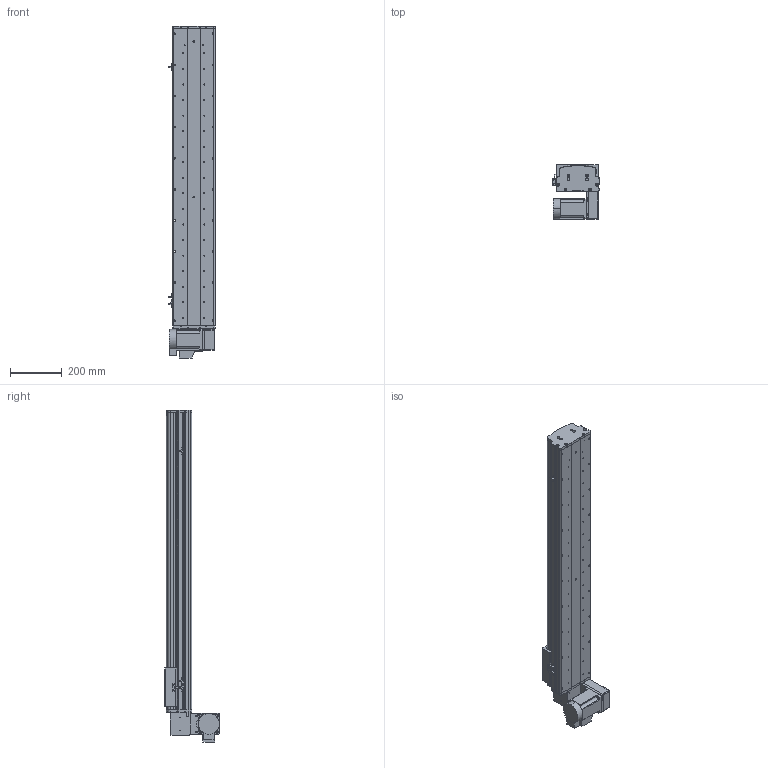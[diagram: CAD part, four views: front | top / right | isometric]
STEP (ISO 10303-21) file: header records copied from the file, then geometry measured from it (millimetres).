
FILE_DESCRIPTION (( 'STEP AP214' ), '1' );
FILE_NAME ('KSD165B-S900-MRD-CM.STEP', '2017-10-16T09:39:50', ( '微软用户' ), ( '微软中国' ), 'SwSTEP 2.0', 'SolidWorks 2014', '' );
FILE_SCHEMA (( 'AUTOMOTIVE_DESIGN' ));
Length unit declared in the file: millimetre
Products named in the file (17): 拸秶雄ん750W侜督萇儂; 165宽马达安装板同步带右; U倰嫖萇假蚾璃; U倰嫖萇EEㄜSX672; 覜茼え68遵圉猾敕; KSD165模组-同步带-防撞垫2; KSD165模组同步带-防撞垫1; KSD165耀郪-ヶ傷啣1-肮祭湍; KSD165模组-后端板1-同步带; KSD165模组-同步带滑动座-最新版; KSD165B-S900-MRD-CM; 130宽模组马达安装板连板上下折丝杆同步带; 130宽模组保护罩上下左右折-同步带; HTPA26S5M250-A-H8 750W萇儂蚚; HTPA26S5M250-A-H8 400W萇儂蚚 ; KSD165模组-同步带防尘盖1-900行程-最新版; KSD165模组同步带底板-900行程-最新
Assembly tree (20 placements, depth 2):
  KSD165B-S900-MRD-CM
    KSD165模组-同步带滑动座-最新版
    KSD165模组-后端板1-同步带
    KSD165耀郪-ヶ傷啣1-肮祭湍
    KSD165模组同步带-防撞垫1
    KSD165模组-同步带-防撞垫2
    覜茼え68遵圉猾敕
    U倰嫖萇EEㄜSX672  x3
    U倰嫖萇假蚾璃  x3
    165宽马达安装板同步带右
    拸秶雄ん750W侜督萇儂
    KSD165模组同步带底板-900行程-最新
    KSD165模组-同步带防尘盖1-900行程-最新版
    HTPA26S5M250-A-H8 400W萇儂蚚 
    HTPA26S5M250-A-H8 750W萇儂蚚
    130宽模组保护罩上下左右折-同步带
    130宽模组马达安装板连板上下折丝杆同步带
Bounding box: 178.7 x 210 x 1280.5 mm (x, y, z)
Volume: 7466128 mm3; surface area: 1734094.1 mm2
Topology: 21 solids, 21 shells, 1957 faces, 5526 edges, 3608 vertices
Faces by surface type: cylinder 1259, plane 586, cone 112
Entity records: 63532 total; most frequent: CARTESIAN_POINT 13024, DIRECTION 10442, ORIENTED_EDGE 9712, EDGE_CURVE 4856, AXIS2_PLACEMENT_3D 4096, VERTEX_POINT 3200, CIRCLE 2336, LINE 2250
